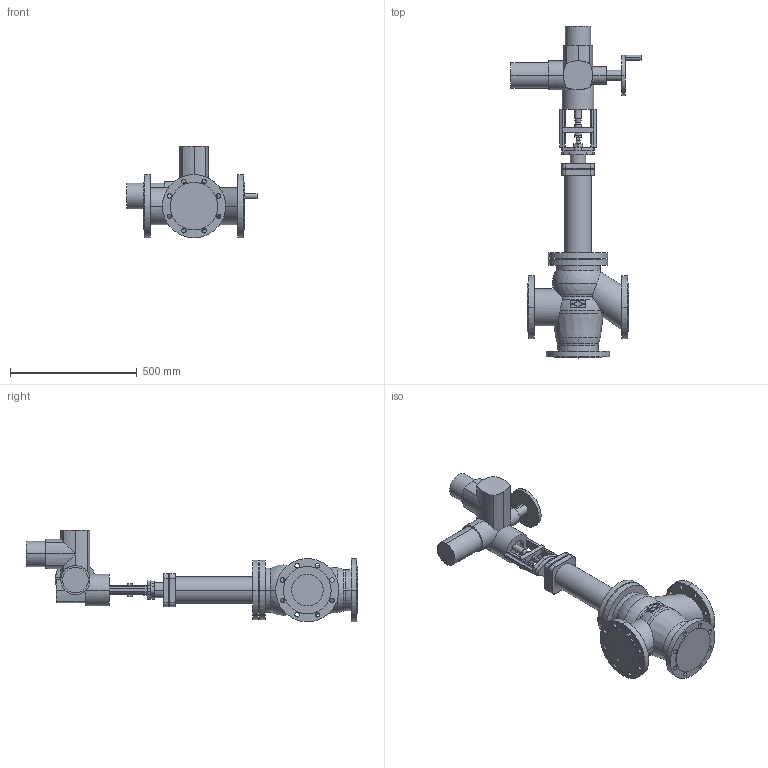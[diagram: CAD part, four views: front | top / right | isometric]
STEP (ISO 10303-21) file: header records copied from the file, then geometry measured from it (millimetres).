
FILE_DESCRIPTION(('OneSpaceDesigner STEP Export'),'2;1');
FILE_NAME('c000003198.stp','2007-01-26T13:18:51',(''),(''),'OneSpace Designer STEP processor for AP214 (Solid Model)','OneSpace Designer 14.00B 27-May-2006 (C) CoCreate Software GmbH','');
FILE_SCHEMA(('AUTOMOTIVE_DESIGN { 1 0 10303 214 1 1 1 1 }'));
Length unit declared in the file: millimetre
Products named in the file (2): 1; 2
Bounding box: 514 x 1311.2 x 362 mm (x, y, z)
Volume: 30221847.6 mm3; surface area: 1337968.2 mm2
Topology: 2 solids, 2 shells, 358 faces, 929 edges, 591 vertices
Faces by surface type: cylinder 182, plane 154, torus 8, sphere 8, cone 6
Entity records: 10463 total; most frequent: CARTESIAN_POINT 2278, ORIENTED_EDGE 1842, DIRECTION 1526, EDGE_CURVE 921, VERTEX_POINT 591, AXIS2_PLACEMENT_3D 532, VECTOR 462, LINE 462
